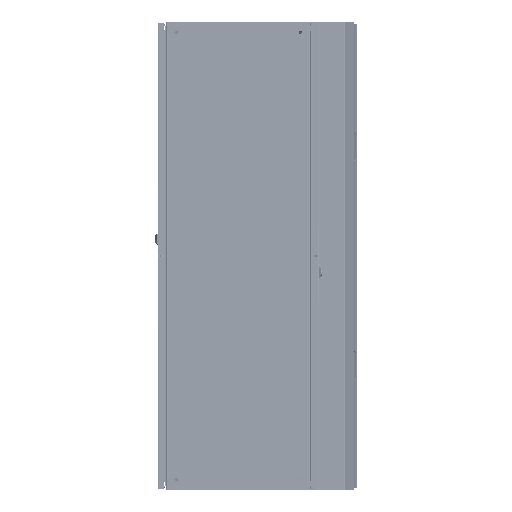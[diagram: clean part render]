
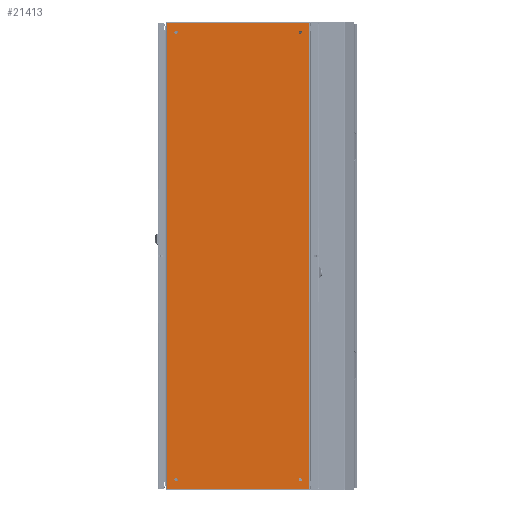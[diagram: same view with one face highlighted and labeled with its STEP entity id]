
A CAD part, left-side view. The second image highlights one B-rep face of the part: STEP entity #21413.
In plain terms, the highlighted planar face has unit normal (-1, 0, 0) as drawn and (0, -1, 0) by its records, which use the part's own axes.
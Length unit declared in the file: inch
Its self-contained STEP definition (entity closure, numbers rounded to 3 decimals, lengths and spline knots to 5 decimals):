
#18970=DIRECTION('',(1.,0.,0.));
#18971=VECTOR('',#18970,59.725);
#18972=CARTESIAN_POINT('',(-29.8625,-0.075,9.105));
#18973=LINE('',#18972,#18971);
#19444=DIRECTION('',(1.,0.,0.));
#19445=VECTOR('',#19444,59.725);
#19446=CARTESIAN_POINT('',(-29.8625,-0.075,-9.105));
#19447=LINE('',#19446,#19445);
#19451=CARTESIAN_POINT('',(28.625,-0.075,-7.9375));
#19452=DIRECTION('',(0.,-1.,0.));
#19453=DIRECTION('',(-1.,0.,0.));
#19454=AXIS2_PLACEMENT_3D('',#19451,#19452,#19453);
#19459=CARTESIAN_POINT('',(28.625,-0.075,-7.9375));
#19460=DIRECTION('',(0.,-1.,0.));
#19461=DIRECTION('',(1.,0.,0.));
#19462=AXIS2_PLACEMENT_3D('',#19459,#19460,#19461);
#19467=CARTESIAN_POINT('',(28.625,-0.075,7.9375));
#19468=DIRECTION('',(0.,-1.,0.));
#19469=DIRECTION('',(-1.,0.,0.));
#19470=AXIS2_PLACEMENT_3D('',#19467,#19468,#19469);
#19475=CARTESIAN_POINT('',(28.625,-0.075,7.9375));
#19476=DIRECTION('',(0.,-1.,0.));
#19477=DIRECTION('',(1.,0.,0.));
#19478=AXIS2_PLACEMENT_3D('',#19475,#19476,#19477);
#19483=CARTESIAN_POINT('',(-28.625,-0.075,-7.9375));
#19484=DIRECTION('',(0.,-1.,0.));
#19485=DIRECTION('',(-1.,0.,0.));
#19486=AXIS2_PLACEMENT_3D('',#19483,#19484,#19485);
#19491=CARTESIAN_POINT('',(-28.625,-0.075,-7.9375));
#19492=DIRECTION('',(0.,-1.,0.));
#19493=DIRECTION('',(1.,0.,0.));
#19494=AXIS2_PLACEMENT_3D('',#19491,#19492,#19493);
#19499=CARTESIAN_POINT('',(-28.625,-0.075,7.9375));
#19500=DIRECTION('',(0.,-1.,0.));
#19501=DIRECTION('',(-1.,0.,0.));
#19502=AXIS2_PLACEMENT_3D('',#19499,#19500,#19501);
#19507=CARTESIAN_POINT('',(-28.625,-0.075,7.9375));
#19508=DIRECTION('',(0.,-1.,0.));
#19509=DIRECTION('',(1.,0.,0.));
#19510=AXIS2_PLACEMENT_3D('',#19507,#19508,#19509);
#19529=DIRECTION('',(0.,0.,1.));
#19530=VECTOR('',#19529,18.21);
#19531=CARTESIAN_POINT('',(-29.8625,-0.075,-9.105));
#19532=LINE('',#19531,#19530);
#20290=DIRECTION('',(0.,0.,1.));
#20291=VECTOR('',#20290,18.21);
#20292=CARTESIAN_POINT('',(29.8625,-0.075,-9.105));
#20293=LINE('',#20292,#20291);
#20370=CARTESIAN_POINT('',(-29.8625,-0.075,-9.105));
#20372=VERTEX_POINT('',#20370);
#20373=CARTESIAN_POINT('',(-29.8625,-0.075,9.105));
#20374=VERTEX_POINT('',#20373);
#20378=CARTESIAN_POINT('',(29.8625,-0.075,-9.105));
#20380=VERTEX_POINT('',#20378);
#20381=CARTESIAN_POINT('',(29.8625,-0.075,9.105));
#20382=VERTEX_POINT('',#20381);
#20421=CARTESIAN_POINT('',(-28.84375,-0.075,7.9375));
#20422=CARTESIAN_POINT('',(-28.40625,-0.075,7.9375));
#20423=VERTEX_POINT('',#20421);
#20424=VERTEX_POINT('',#20422);
#20425=CARTESIAN_POINT('',(-28.84375,-0.075,-7.9375));
#20426=CARTESIAN_POINT('',(-28.40625,-0.075,-7.9375));
#20427=VERTEX_POINT('',#20425);
#20428=VERTEX_POINT('',#20426);
#20429=CARTESIAN_POINT('',(28.40625,-0.075,7.9375));
#20430=CARTESIAN_POINT('',(28.84375,-0.075,7.9375));
#20431=VERTEX_POINT('',#20429);
#20432=VERTEX_POINT('',#20430);
#20433=CARTESIAN_POINT('',(28.40625,-0.075,-7.9375));
#20434=CARTESIAN_POINT('',(28.84375,-0.075,-7.9375));
#20435=VERTEX_POINT('',#20433);
#20436=VERTEX_POINT('',#20434);
#21375=CARTESIAN_POINT('',(-29.8625,-0.075,-9.105));
#21376=DIRECTION('',(0.,1.,0.));
#21377=DIRECTION('',(0.,0.,1.));
#21378=AXIS2_PLACEMENT_3D('',#21375,#21376,#21377);
#21379=PLANE('',#21378);
#21381=ORIENTED_EDGE('',*,*,#21380,.T.);
#21382=ORIENTED_EDGE('',*,*,#20779,.T.);
#21384=ORIENTED_EDGE('',*,*,#21383,.F.);
#21386=ORIENTED_EDGE('',*,*,#21385,.F.);
#21387=EDGE_LOOP('',(#21381,#21382,#21384,#21386));
#21388=FACE_OUTER_BOUND('',#21387,.F.);
#21390=ORIENTED_EDGE('',*,*,#21389,.T.);
#21392=ORIENTED_EDGE('',*,*,#21391,.T.);
#21393=EDGE_LOOP('',(#21390,#21392));
#21394=FACE_BOUND('',#21393,.F.);
#21396=ORIENTED_EDGE('',*,*,#21395,.T.);
#21398=ORIENTED_EDGE('',*,*,#21397,.T.);
#21399=EDGE_LOOP('',(#21396,#21398));
#21400=FACE_BOUND('',#21399,.F.);
#21402=ORIENTED_EDGE('',*,*,#21401,.T.);
#21404=ORIENTED_EDGE('',*,*,#21403,.T.);
#21405=EDGE_LOOP('',(#21402,#21404));
#21406=FACE_BOUND('',#21405,.F.);
#21408=ORIENTED_EDGE('',*,*,#21407,.T.);
#21410=ORIENTED_EDGE('',*,*,#21409,.T.);
#21411=EDGE_LOOP('',(#21408,#21410));
#21412=FACE_BOUND('',#21411,.F.);
#19455=CIRCLE('',#19454,0.21875);
#19463=CIRCLE('',#19462,0.21875);
#19471=CIRCLE('',#19470,0.21875);
#19479=CIRCLE('',#19478,0.21875);
#19487=CIRCLE('',#19486,0.21875);
#19495=CIRCLE('',#19494,0.21875);
#19503=CIRCLE('',#19502,0.21875);
#19511=CIRCLE('',#19510,0.21875);
#20779=EDGE_CURVE('',#20374,#20382,#18973,.T.);
#21380=EDGE_CURVE('',#20372,#20374,#19532,.T.);
#21383=EDGE_CURVE('',#20380,#20382,#20293,.T.);
#21385=EDGE_CURVE('',#20372,#20380,#19447,.T.);
#21389=EDGE_CURVE('',#20435,#20436,#19455,.T.);
#21391=EDGE_CURVE('',#20436,#20435,#19463,.T.);
#21395=EDGE_CURVE('',#20431,#20432,#19471,.T.);
#21397=EDGE_CURVE('',#20432,#20431,#19479,.T.);
#21401=EDGE_CURVE('',#20427,#20428,#19487,.T.);
#21403=EDGE_CURVE('',#20428,#20427,#19495,.T.);
#21407=EDGE_CURVE('',#20423,#20424,#19503,.T.);
#21409=EDGE_CURVE('',#20424,#20423,#19511,.T.);
#21413=ADVANCED_FACE('',(#21388,#21394,#21400,#21406,#21412),#21379,.F.);
